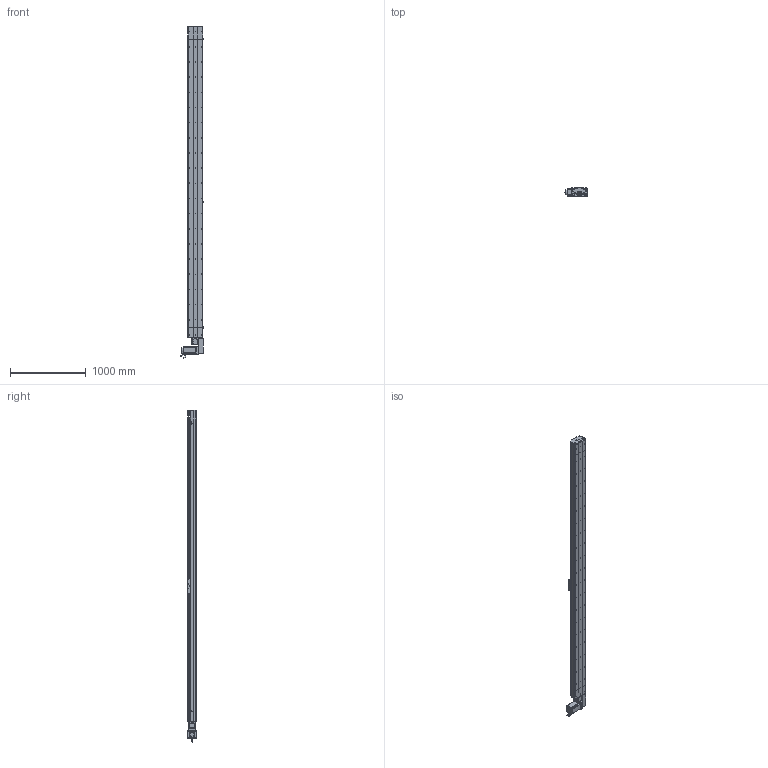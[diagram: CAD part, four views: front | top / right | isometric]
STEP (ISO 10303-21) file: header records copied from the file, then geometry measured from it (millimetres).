
FILE_DESCRIPTION (( 'STEP AP214' ), '1' );
FILE_NAME ('D20 TBH LH S3800.STEP', '2010-07-01T09:10:55', ( 'Conseil Régional Haute-Normandie' ), ( 'Conseil Régional Haute-Normandie' ), 'SwSTEP 2.0', 'SolidWorks 2010', '' );
FILE_SCHEMA (( 'AUTOMOTIVE_DESIGN' ));
Length unit declared in the file: millimetre
Products named in the file (40): vis M5 L12_Default; rail tail D20; vis M5 L25_Default; vis M5 L8 90°_Default; cache arbre D20_Default; plaque de  bout head D20B LH_Default; poulie head D20_Default; couvercle head D20_Default; rail head D20; corpl head D20_Default; head LH_Default; guide D20B; Chariot D20B; chariot D20B_Default; rail + couroie  D20 S3800; couvercle D20 S3800_Default; corp D20 S3800_Default; Course B L3800_Default; D20 TBH LH S3800; tete d''axe poulie D20B; couvercle tail D20_Default; Couroie tail D20_Default; plaque de  bout tail D20_Default; poulie tail D20_Default; corpl tail D20_Default; cache D20_Default; tail D20_Default; vis M8 L12_Default; clavette; Conecteur_Default; Conecteur2_Default; codeur 110BLDC170A-630x; corps 110BLDC170A-630x; avant 110BLDC170A-630x; Moteur motionking 110BLDC170A-640x; vis M5 L70_Default; Plaque racord D20LH_Default; Renvoi LH D20_Default; vis M5 L5_Default; couroie_Default
Assembly tree (71 placements, depth 4):
  D20 TBH LH S3800
    chariot D20B_Default
      vis M5 L12_Default  x4
      guide D20B  x2
      Chariot D20B
    Course B L3800_Default
      corp D20 S3800_Default
      couvercle D20 S3800_Default
      rail + couroie  D20 S3800
    head LH_Default
      vis M5 L12_Default  x10
      vis M5 L70_Default  x4
      vis M5 L5_Default  x4
      vis M8 L12_Default  x4
      Moteur motionking 110BLDC170A-640x
        codeur 110BLDC170A-630x
        corps 110BLDC170A-630x
        avant 110BLDC170A-630x
        clavette
        Conecteur_Default
        Conecteur2_Default
      Renvoi LH D20_Default
      vis M5 L25_Default  x2
      Plaque racord D20LH_Default
      cache D20_Default  x2
      cache arbre D20_Default
      plaque de  bout head D20B LH_Default
      couvercle head D20_Default
      rail head D20
      corpl head D20_Default
      couroie_Default
      poulie head D20_Default
    tail D20_Default
      vis M5 L12_Default  x4
      tete d''axe poulie D20B
      plaque de  bout tail D20_Default
      Couroie tail D20_Default
      corpl tail D20_Default
      rail tail D20
      couvercle tail D20_Default
      vis M5 L25_Default  x2
      poulie tail D20_Default
      vis M5 L8 90°_Default  x2
Bounding box: 304.2 x 115.7 x 4380 mm (x, y, z)
Volume: 32572065.5 mm3; surface area: 8121895.3 mm2
Topology: 95 solids, 95 shells, 2927 faces, 7599 edges, 4917 vertices
Faces by surface type: plane 1652, cylinder 951, bspline 136, cone 99, torus 89
Entity records: 96250 total; most frequent: CARTESIAN_POINT 31665, ORIENTED_EDGE 11854, DIRECTION 11082, EDGE_CURVE 5927, VERTEX_POINT 3903, AXIS2_PLACEMENT_3D 3696, VECTOR 3690, LINE 3690
